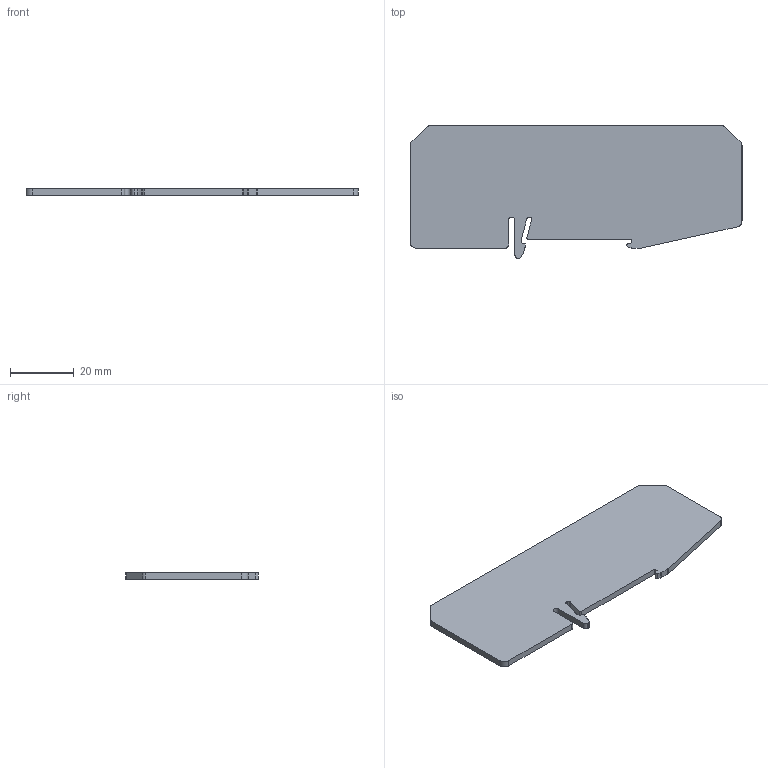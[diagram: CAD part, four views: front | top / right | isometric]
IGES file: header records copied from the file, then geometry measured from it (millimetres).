
Global section: file name: 3206225_atp_qtc_quattro_select.igs; native system: OneSpace Designer 3D IGES; preprocessor: 12.01C  26-Mar-2004; date: 20040930.134225; units: millimetre
Bounding box: 104.4 x 41.75 x 2 mm (x, y, z)
Surface area: 8162 mm2 (no closed solid volume)
Topology: 0 solids, 0 shells, 40 faces, 328 edges, 328 vertices
Faces by surface type: bspline 40
